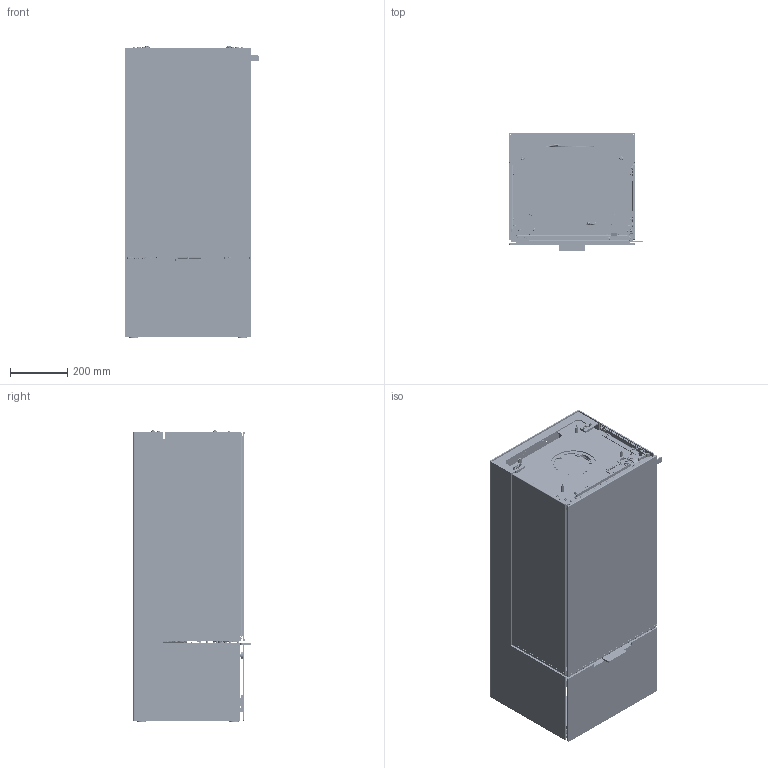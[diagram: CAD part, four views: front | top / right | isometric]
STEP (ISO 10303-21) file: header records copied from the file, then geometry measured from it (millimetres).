
FILE_DESCRIPTION(/* description */ (''),/* implementation_level */ '2;1');
FILE_NAME(/* name */ 'C:\Users\pch.RAIS\Desktop\Ann Charlotte\10-0151.stp',/* time_stamp */ '2018-09-28T10:51:39+02:00',/* author */ ('pch'),/* organization */ (''),/* preprocessor_version */ 'ST-DEVELOPER v16.13',/* originating_system */ 'Autodesk Inventor 2018',/* authorisation */ '');
FILE_SCHEMA (('AUTOMOTIVE_DESIGN { 1 0 10303 214 3 1 1 }'));
Products named in the file (213): 10-0151; 10-0111; 10-0111mon; 10-0111-0101sv; 10-0111-010101; 10-0111-010102; 10-0111-010103; 10-0111-010104; 2610409; 2610410; 10-0000-1201sv; 10-0000-120101; 10-0000-120103; 10-0000-120104; 10-0000-120105; 10-0000-120106; 10-0000-120107; 10-0000-120108; 10-0000-120109; 10-0000-120110; 10-0000-120111; 10-0000-120112; 10-0000-120113; 10-0000-120120; 10-0000-120102; 10-0000-120123; 10-0000-120121; 1711208; 10-34; 10-37; 10-0111-010105; 10-0000-120118; 10-0000-120119; 10-0101-010105; 1710912sv; 1710912; 4021219; 62-03SV; 0110-M6X12 SV.BOLT; 62-03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
Assembly tree (423 placements, depth 5):
  10-0151
    10-0111
      10-0111mon
        10-0111-0101sv
          10-0111-010101
          10-0111-010102
          10-0111-010103
          10-0111-010104
          2610409
          2610410
          0110-M5x8 CYL RÅ LH  x2
        10-0000-1201sv
          10-0000-120101
          10-0000-120103
          10-0000-120104
          10-0000-120105
          10-0000-120106
          10-0000-120107
          10-0000-120108  x2
          10-0000-120109
          10-0000-120110
          10-0000-120111
          10-0000-120112
          10-0000-120113
          10-0000-120120
          10-0000-120102
          10-0000-120123
          10-0000-120121
          1711208
          10-37  x4
          10-34  x2
        10-0111-010105  x2
        10-0000-120118
        10-0000-120119
        10-0101-010105
        1710912sv
          1710912
          4021219
        62-03SV
          0110-M6X12 SV.BOLT  x3
          62-03
        0005580
        3040117
        0110-M5X12 CYL RÅ  x16
        0110-m5 skive plan R  x6
        0110-M5 SKIVE PLAN  x2
        0110-M6X16 6KT FL  x2
        0110-M6 MØTRIK RÅ  x3
        0110-M6 SKIVE FJ
        0110-8X20/M6 PB  x2
        1010-8-14X16 Leje  x2
      10-0000-1801
        10-0000-180101
        10-0000-180102
        1711806
        10-0000-180103mon
          10-0000-180103
          10-0000-180104
          0110-M5X10 CYL RÅ LH  x2
          10-0000-180105
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Bounding box: 470 x 416.51 x 1022 mm (x, y, z)
Volume: 35979483.6 mm3; surface area: 11971646.2 mm2
Topology: 402 solids, 402 shells, 11700 faces, 29067 edges, 18395 vertices
Faces by surface type: plane 6554, cylinder 3540, bspline 650, cone 469, torus 371, sphere 116
Full cylindrical faces by diameter (mm): 1.2 x6, 1.5 x6, 1.75 x3, 2 x4, 2.34 x2, 2.7 x2, 2.89 x2, 3 x1, 3.2 x1, 3.3 x2, 3.5 x27, 4 x5, 4.134 x4, 4.2 x121, 4.3 x6, 4.773 x2, 4.917 x3, 4.95 x5, 5 x178, 5.1 x25, 5.2 x17, 5.3 x17, 5.5 x18, 5.8 x2, 5.9 x4, 6 x55, 6.1 x4, 6.2 x8, 6.4 x4, 6.5 x7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
Entity records: 295406 total; most frequent: CARTESIAN_POINT 85670, DIRECTION 42397, ORIENTED_EDGE 40782, EDGE_CURVE 20391, AXIS2_PLACEMENT_3D 14527, LINE 13343, VECTOR 13343, VERTEX_POINT 13288
